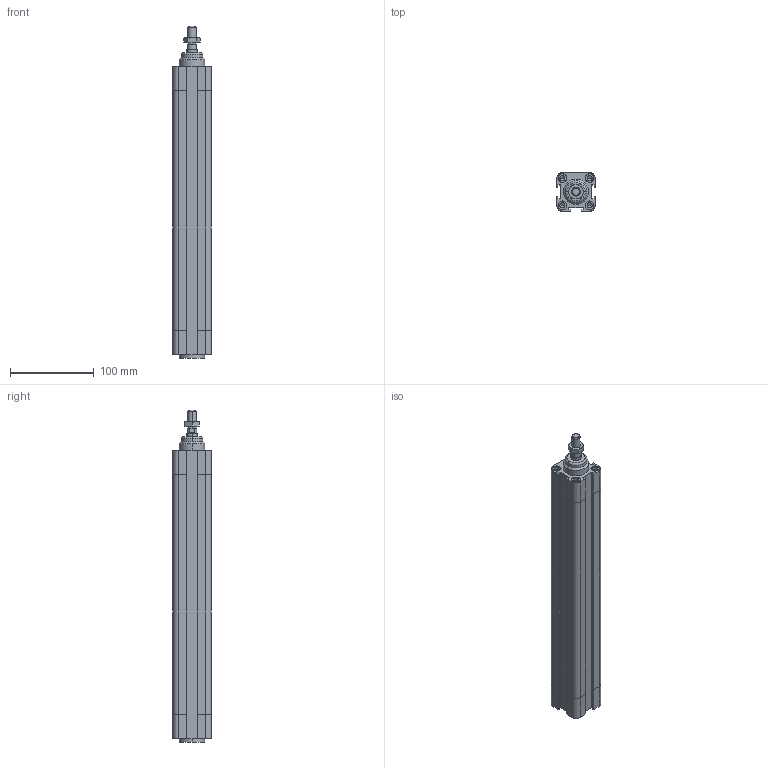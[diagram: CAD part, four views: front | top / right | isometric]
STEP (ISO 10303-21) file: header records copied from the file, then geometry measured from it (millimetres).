
FILE_DESCRIPTION((''),'2;1');
FILE_NAME('F:\Lib-3d\1380\CIL\1380_32_0250_01.stp','2004-01-07T15:59:29',('maffial1'),(''),'Autodesk Inventor 8','Autodesk Inventor 8','');
FILE_SCHEMA(('AUTOMOTIVE_DESIGN { 1 0 10303 214 1 1 1 1 }'));
Length unit declared in the file: millimetre
Products named in the file (4): 1380_32_0250_01; CPP01_32_250; CPP02_32_250; 1320_32_18F
Assembly tree (3 placements, depth 2):
  1380_32_0250_01
    CPP01_32_250
    CPP02_32_250
    1320_32_18F
Bounding box: 46 x 46 x 396 mm (x, y, z)
Volume: 652300.5 mm3; surface area: 109583.2 mm2
Topology: 3 solids, 3 shells, 244 faces, 570 edges, 356 vertices
Faces by surface type: plane 83, bspline 67, cylinder 58, cone 34, torus 2
Entity records: 7668 total; most frequent: CARTESIAN_POINT 2166, DIRECTION 1136, ORIENTED_EDGE 1108, EDGE_CURVE 554, AXIS2_PLACEMENT_3D 422, VERTEX_POINT 356, VECTOR 292, LINE 292
